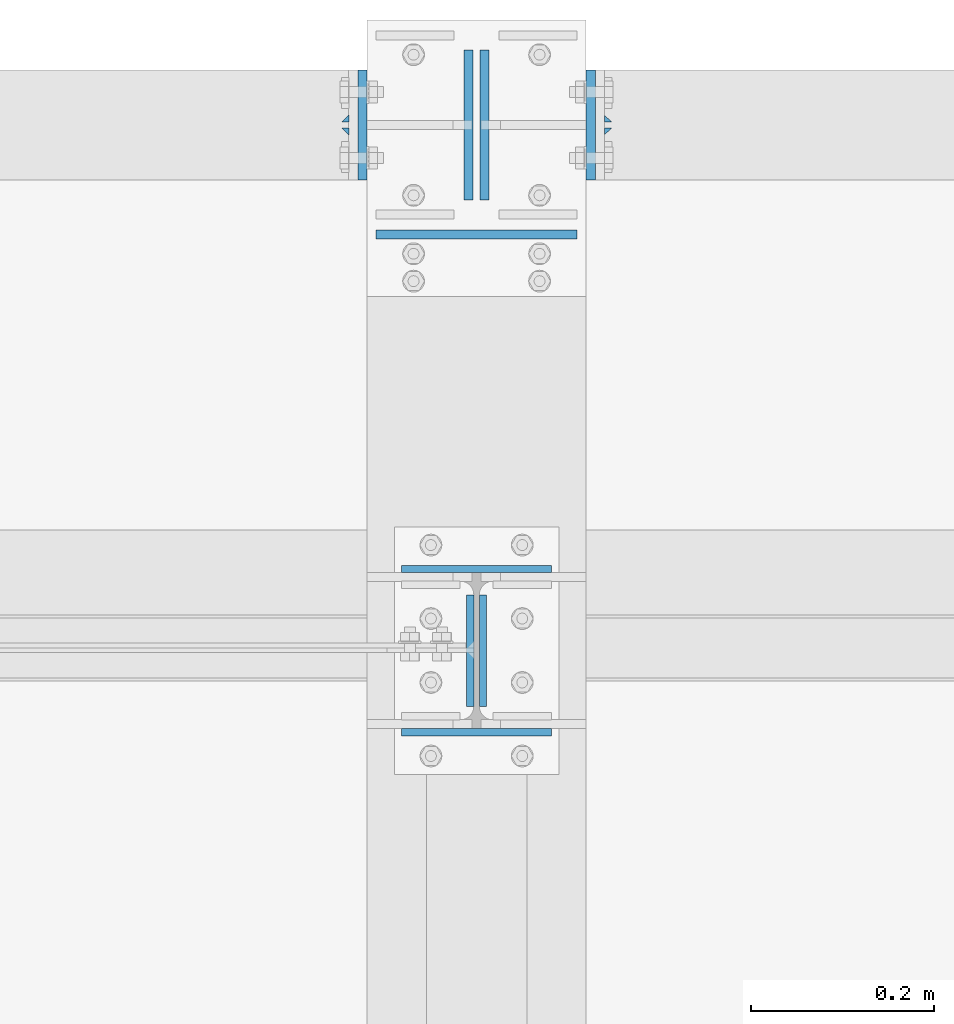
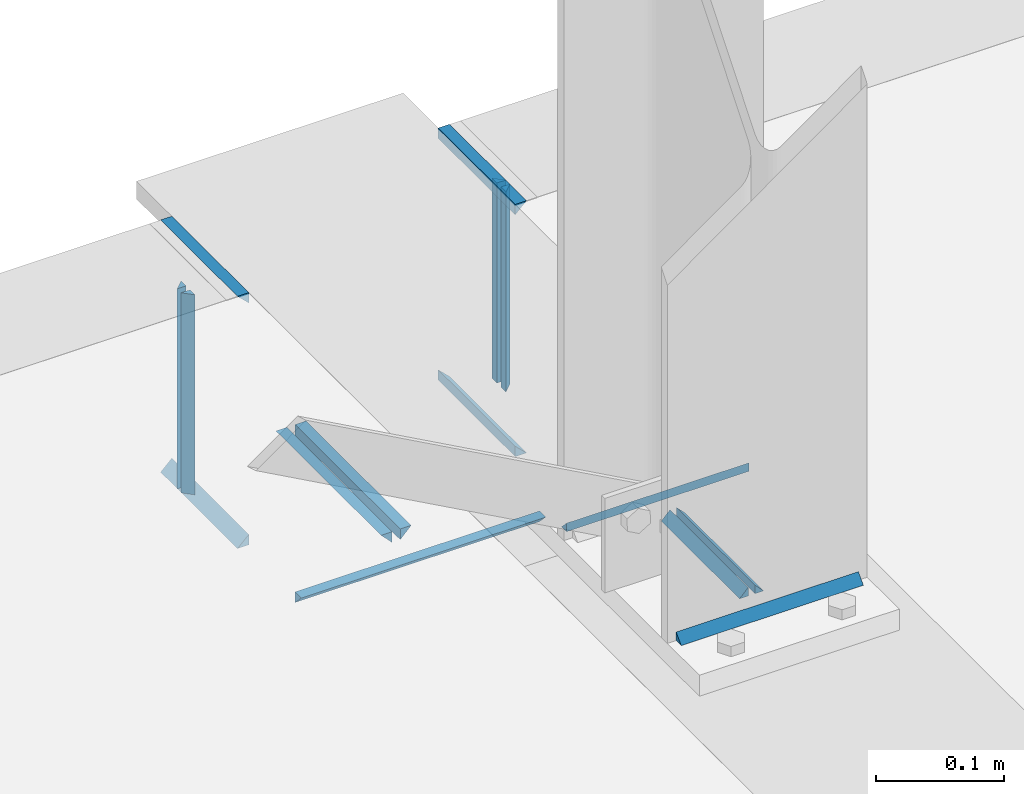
# One storey, part 17 of 66: 26 fasteners.
"""IFC4 building model written with IfcOpenShell, lengths in metres."""

import ifcopenshell
import ifcopenshell.guid

model = None  # the IFC model being written
_history = None  # IfcOwnerHistory: only IFC2X3 demands one
_inside = {}  # id of a spatial element -> (the spatial element, [elements in it])
_under = {}  # id of a project, library or spatial element -> (it, [spatial elements below it])
_declared = {}  # id of a project -> (the project, [libraries it declares])
_typed = {}  # id of a type object -> (the type object, [elements of that type])
_made_of = {}  # id of a material, layer set ... -> (it, [elements and type objects made of it])


def new_model(schema):
    """Start an empty IFC model of exactly this schema.

    Asked for "IFC4X3", IfcOpenShell would pick the latest addendum, in which some entities
    have other attributes; the version numbers below select the first issue.
    IFC2X3 requires an IfcOwnerHistory on every rooted entity: one is made here for all.
    """
    global model, _history
    if schema == "IFC4X3":
        model = ifcopenshell.file(schema_version=(4, 3, 0, 0))
    else:
        model = ifcopenshell.file(schema=schema)
    _inside.clear()
    _under.clear()
    _declared.clear()
    _typed.clear()
    _made_of.clear()
    _history = None
    if model.schema == "IFC2X3":
        org = make("IfcOrganization", Name="unknown")
        user = make(
            "IfcPersonAndOrganization",
            ThePerson=make("IfcPerson", FamilyName="unknown"),
            TheOrganization=org,
        )
        app = make(
            "IfcApplication",
            ApplicationDeveloper=org,
            Version="unknown",
            ApplicationFullName="unknown",
            ApplicationIdentifier="unknown",
        )
        _history = make(
            "IfcOwnerHistory",
            OwningUser=user,
            OwningApplication=app,
            ChangeAction="ADDED",
            CreationDate=0,
        )
    return model


def make(cls, **values):
    """One entity of the class cls with the attributes given. An attribute that is None is left unset."""
    return model.create_entity(
        cls, **{name: value for name, value in values.items() if value is not None}
    )


def rooted(cls, **values):
    """An entity with a GlobalId (a new one), such as an element, a storey or a relation."""
    return make(cls, GlobalId=ifcopenshell.guid.new(), OwnerHistory=_history, **values)


def si_unit(unit_type, name, prefix=None):
    """IfcSIUnit, for example si_unit("LENGTHUNIT", "METRE", prefix="MILLI")."""
    return make("IfcSIUnit", UnitType=unit_type, Prefix=prefix, Name=name)


def assignment(units):
    """IfcUnitAssignment: the units of a project."""
    return None if units is None else make("IfcUnitAssignment", Units=units)


def point(xyz):
    """IfcCartesianPoint."""
    return None if xyz is None else make("IfcCartesianPoint", Coordinates=xyz)


def direction(xyz):
    """IfcDirection."""
    return None if xyz is None else make("IfcDirection", DirectionRatios=xyz)


def frame(location, z_axis=None, x_axis=None):
    """IfcAxis2Placement3D, a coordinate frame: its origin and axes. An axis left out is left unset."""
    return make(
        "IfcAxis2Placement3D",
        Location=point(location),
        Axis=direction(z_axis),
        RefDirection=direction(x_axis),
    )


def origin_with_axes():
    """The frame at (0, 0, 0) with the z axis (0, 0, 1) and the x axis (1, 0, 0) written out."""
    return frame((0.0, 0.0, 0.0), z_axis=(0.0, 0.0, 1.0), x_axis=(1.0, 0.0, 0.0))


def place(relative_to, where):
    """IfcLocalPlacement: puts the frame where relative to a parent placement (None: the world)."""
    return make(
        "IfcLocalPlacement", PlacementRelTo=relative_to, RelativePlacement=where
    )


def context(
    kind, dimensions, precision=None, world=None, true_north=None, identifier=None
):
    """IfcGeometricRepresentationContext, for example the 3D "Model" context."""
    return make(
        "IfcGeometricRepresentationContext",
        ContextIdentifier=identifier,
        ContextType=kind,
        CoordinateSpaceDimension=dimensions,
        Precision=precision,
        WorldCoordinateSystem=world,
        TrueNorth=true_north,
    )


def project(units=None, contexts=None):
    """IfcProject with its units and contexts."""
    return rooted(
        "IfcProject",
        Name="project",
        RepresentationContexts=contexts,
        UnitsInContext=assignment(units),
    )


def spatial(cls, under=None, at=None, **own):
    """A site, building, storey or space (cls), placed at a placement, below another one or the project."""
    s = rooted(cls, ObjectPlacement=at, **own)
    if under is not None:
        _under.setdefault(under.id(), (under, []))[1].append(s)
    return s


def polyline(points):
    """IfcPolyline through the points."""
    return make("IfcPolyline", Points=[point(p) for p in points])


def outline(outer, holes=None, kind="AREA"):
    """IfcArbitraryClosedProfileDef: a profile drawn as a closed curve; with holes, ...WithVoids."""
    if holes is None:
        return make("IfcArbitraryClosedProfileDef", ProfileType=kind, OuterCurve=outer)
    return make(
        "IfcArbitraryProfileDefWithVoids",
        ProfileType=kind,
        OuterCurve=outer,
        InnerCurves=holes,
    )


def extrude(swept, where, along, depth):
    """IfcExtrudedAreaSolid: the profile swept, set in the frame where, extruded along a direction by depth."""
    return make(
        "IfcExtrudedAreaSolid",
        SweptArea=swept,
        Position=where,
        ExtrudedDirection=direction(along),
        Depth=depth,
    )


def shape(context_of_items, identifier, shape_type, items):
    """IfcShapeRepresentation: the items that make up one representation, for example the "Body"."""
    return make(
        "IfcShapeRepresentation",
        ContextOfItems=context_of_items,
        RepresentationIdentifier=identifier,
        RepresentationType=shape_type,
        Items=items,
    )


def made_of(thing, what):
    """Note that an element or type object is made of a material, layer set ...; save() writes the relation."""
    if what is not None:
        _made_of.setdefault(what.id(), (what, []))[1].append(thing)
    return thing


def type_object(cls, material=None, **own):
    """A type object (cls), such as IfcWallType, which elements share."""
    return made_of(rooted(cls, **own), material)


def element(
    cls,
    number,
    at=None,
    inside=None,
    cuts=None,
    type_object=None,
    material=None,
    context=None,
    identifier="Body",
    shape_type=None,
    held_by="IfcProductDefinitionShape",
    body=None,
    shapes=None,
    **own,
):
    """One element of the class cls, such as IfcWall. Its Tag is "e" and its number.

    at: its placement. inside: the storey or other place that contains it. cuts: it is an
    opening in that element (IfcRelVoidsElement). A single representation is given by context,
    identifier, shape_type and body (its items); several are given by shapes. held_by: the class
    of the entity that holds the representations. save() writes the other relations.
    """
    e = rooted(cls, Tag="e%d" % number, ObjectPlacement=at, **own)
    if body is not None:
        shapes = [shape(context, identifier, shape_type, body)]
    if shapes is not None:
        e.Representation = make(held_by, Representations=shapes)
    if inside is not None:
        _inside.setdefault(inside.id(), (inside, []))[1].append(e)
    if cuts is not None:
        rooted(
            "IfcRelVoidsElement", RelatingBuildingElement=cuts, RelatedOpeningElement=e
        )
    if type_object is not None:
        _typed.setdefault(type_object.id(), (type_object, []))[1].append(e)
    return made_of(e, material)


def aggregate(whole, parts):
    """IfcRelAggregates: a whole, such as a stair, and the parts it consists of."""
    return rooted("IfcRelAggregates", RelatingObject=whole, RelatedObjects=parts)


def save(model, path):
    """Write the relations noted so far, then the file.

    IfcRelAggregates (storeys below a building ...), IfcRelContainedInSpatialStructure (elements
    in a storey), IfcRelDefinesByType, IfcRelAssociatesMaterial and IfcRelDeclares: one each for
    every whole, place, type object, material and project.
    """
    for whole, parts in _under.values():
        aggregate(whole, parts)
    for where, things in _inside.values():
        rooted(
            "IfcRelContainedInSpatialStructure",
            RelatedElements=things,
            RelatingStructure=where,
        )
    for kind, things in _typed.values():
        rooted("IfcRelDefinesByType", RelatedObjects=things, RelatingType=kind)
    for what, things in _made_of.values():
        rooted("IfcRelAssociatesMaterial", RelatedObjects=things, RelatingMaterial=what)
    for by, libraries in _declared.values():
        rooted("IfcRelDeclares", RelatingContext=by, RelatedDefinitions=libraries)
    model.write(path)


model = new_model("IFC4")

# Units and contexts
model_context = context("Model", 3, precision=1e-05, world=origin_with_axes())
ifc_project = project(units=[si_unit("LENGTHUNIT", "METRE"), si_unit("AREAUNIT", "SQUARE_METRE"), si_unit("VOLUMEUNIT", "CUBIC_METRE"), si_unit("MASSUNIT", "GRAM", prefix="KILO"), si_unit("TIMEUNIT", "SECOND"), si_unit("PLANEANGLEUNIT", "RADIAN"), si_unit("SOLIDANGLEUNIT", "STERADIAN"), si_unit("THERMODYNAMICTEMPERATUREUNIT", "DEGREE_CELSIUS")], contexts=[model_context])

# Site, building, storey
placement_1 = place(None, origin_with_axes())
site = spatial("IfcSite", under=ifc_project, at=placement_1, Name="Italia", CompositionType="ELEMENT")
building = spatial("IfcBuilding", under=site, at=placement_1, Name="Uffici", CompositionType="ELEMENT")
storey_placement = place(None, frame((0.0, 0.0, 3.299999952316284), z_axis=(0.0, 0.0, 1.0), x_axis=(1.0, 0.0, 0.0)))
storey = spatial("IfcBuildingStorey", under=building, at=storey_placement, Name="Storey 1", CompositionType="ELEMENT", Elevation=3.299999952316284)

# Fasteners
fastener_type_1 = type_object("IfcFastenerType", Name="Collegamento 0107_0207", PredefinedType="WELD")
placement_2 = place(placement_1, origin_with_axes())
fastener_1_placement = place(placement_2, origin_with_axes())
element("IfcFastener", 1, at=fastener_1_placement, inside=storey, type_object=fastener_type_1, Name="Collegamento 0107_0207", context=model_context, shape_type="SweptSolid", body=[
    extrude(outline(polyline([(0.0, 0.0), (0.00792837, 0.00817347), (0.00792837, 0.0), (0.0, 0.0)])), frame((3.28705, 4.90788, 3.31995), z_axis=(-1.0, 0.0, 0.0), x_axis=(0.0, -1.0, 0.0)), (0.0, 0.0, 1.0), 0.1641),
])
fastener_type_2 = type_object("IfcFastenerType", Name="Collegamento 0107_0207", PredefinedType="WELD")
fastener_2_placement = place(placement_2, origin_with_axes())
element("IfcFastener", 2, at=fastener_2_placement, inside=storey, type_object=fastener_type_2, Name="Collegamento 0107_0207", context=model_context, shape_type="SweptSolid", body=[
    extrude(outline(polyline([(0.0, 0.0), (0.00792837, 0.00817347), (0.00792837, 0.0), (0.0, 0.0)])), frame((3.12295, 4.72112, 3.31995), z_axis=(1.0, 0.0, 0.0), x_axis=(0.0, 1.0, 0.0)), (0.0, 0.0, 1.0), 0.1641),
])
fastener_type_3 = type_object("IfcFastenerType", Name="Collegamento 0107_0207", PredefinedType="WELD")
fastener_3_placement = place(placement_2, origin_with_axes())
element("IfcFastener", 3, at=fastener_3_placement, inside=storey, type_object=fastener_type_3, Name="Collegamento 0107_0207", context=model_context, shape_type="SweptSolid", body=[
    extrude(outline(polyline([(0.0, 0.0), (0.00792813, 0.00817347), (0.00792813, 0.0), (0.0, 0.0)])), frame((3.21588, 4.75345, 3.31995), z_axis=(0.0, 1.0, 0.0), x_axis=(-1.0, 0.0, 0.0)), (0.0, 0.0, 1.0), 0.122101),
])
fastener_type_4 = type_object("IfcFastenerType", Name="Collegamento 0107_0207", PredefinedType="WELD")
fastener_4_placement = place(placement_2, origin_with_axes())
element("IfcFastener", 4, at=fastener_4_placement, inside=storey, type_object=fastener_type_4, Name="Collegamento 0107_0207", context=model_context, shape_type="SweptSolid", body=[
    extrude(outline(polyline([(0.0, 0.0), (0.00792813, 0.00817347), (0.00792813, 0.0), (0.0, 0.0)])), frame((3.19412, 4.87555, 3.31995), z_axis=(0.0, -1.0, 0.0), x_axis=(1.0, 0.0, 0.0)), (0.0, 0.0, 1.0), 0.122101),
])
fastener_type_5 = type_object("IfcFastenerType", Name="Collegamento 0107_0207", PredefinedType="WELD")
fastener_5_placement = place(placement_2, origin_with_axes())
element("IfcFastener", 5, at=fastener_5_placement, inside=storey, type_object=fastener_type_5, Name="Collegamento 0107_0207", context=model_context, shape_type="SweptSolid", body=[
    extrude(outline(polyline([(0.0, 0.0), (0.00792837, 0.00817347), (0.00792837, 0.0), (0.0, 0.0)])), frame((3.28705, 4.90788, 3.31995), z_axis=(-1.0, 0.0, 0.0), x_axis=(0.0, -1.0, 0.0)), (0.0, 0.0, 1.0), 0.1641),
])
fastener_type_6 = type_object("IfcFastenerType", Name="Collegamento 0107_0207", PredefinedType="WELD")
fastener_6_placement = place(placement_2, origin_with_axes())
element("IfcFastener", 6, at=fastener_6_placement, inside=storey, type_object=fastener_type_6, Name="Collegamento 0107_0207", context=model_context, shape_type="SweptSolid", body=[
    extrude(outline(polyline([(0.0, 0.0), (0.00792837, 0.00817347), (0.00792837, 0.0), (0.0, 0.0)])), frame((3.12295, 4.72112, 3.31995), z_axis=(1.0, 0.0, 0.0), x_axis=(0.0, 1.0, 0.0)), (0.0, 0.0, 1.0), 0.1641),
])
fastener_type_7 = type_object("IfcFastenerType", Name="Collegamento 0107_0207", PredefinedType="WELD")
fastener_7_placement = place(placement_2, origin_with_axes())
element("IfcFastener", 7, at=fastener_7_placement, inside=storey, type_object=fastener_type_7, Name="Collegamento 0107_0207", context=model_context, shape_type="SweptSolid", body=[
    extrude(outline(polyline([(0.0, 0.0), (0.00792813, 0.00817347), (0.00792813, 0.0), (0.0, 0.0)])), frame((3.21588, 4.75345, 3.31995), z_axis=(0.0, 1.0, 0.0), x_axis=(-1.0, 0.0, 0.0)), (0.0, 0.0, 1.0), 0.122101),
])
fastener_type_8 = type_object("IfcFastenerType", Name="Collegamento 0107_0207", PredefinedType="WELD")
fastener_8_placement = place(placement_2, origin_with_axes())
element("IfcFastener", 8, at=fastener_8_placement, inside=storey, type_object=fastener_type_8, Name="Collegamento 0107_0207", context=model_context, shape_type="SweptSolid", body=[
    extrude(outline(polyline([(0.0, 0.0), (0.00792813, 0.00817347), (0.00792813, 0.0), (0.0, 0.0)])), frame((3.19412, 4.87555, 3.31995), z_axis=(0.0, -1.0, 0.0), x_axis=(1.0, 0.0, 0.0)), (0.0, 0.0, 1.0), 0.122101),
])
fastener_type_9 = type_object("IfcFastenerType", Name="Collegamenti 0111_0011 0112_0012 0113_0013 0114_0014 0115_0015", PredefinedType="WELD")
fastener_9_placement = place(placement_2, origin_with_axes())
element("IfcFastener", 9, at=fastener_9_placement, inside=storey, type_object=fastener_type_9, Name="Collegamenti 0111_0011 0112_0012 0113_0013 0114_0014 0115_0015", context=model_context, shape_type="SweptSolid", body=[
    extrude(outline(polyline([(0.0, 0.0), (-0.00986814, -0.0101733), (-0.00986814, 0.0), (0.0, 0.0)])), frame((3.31505, 5.26518, 3.04505), z_axis=(-1.0, 0.0, 0.0), x_axis=(0.0, -1.0, 0.0)), (0.0, 0.0, 1.0), 0.2201),
])
fastener_type_10 = type_object("IfcFastenerType", Name="Collegamenti 0111_0011 0112_0012 0113_0013 0114_0014 0115_0015", PredefinedType="WELD")
fastener_10_placement = place(placement_2, origin_with_axes())
element("IfcFastener", 10, at=fastener_10_placement, inside=storey, type_object=fastener_type_10, Name="Collegamenti 0111_0011 0112_0012 0113_0013 0114_0014 0115_0015", context=model_context, shape_type="SweptSolid", body=[
    extrude(outline(polyline([(0.0, 0.0), (-0.00986814, -0.0101733), (-0.00986814, 0.0), (0.0, 0.0)])), frame((3.21857, 5.47205, 3.04505), z_axis=(0.0, -1.0, 0.0), x_axis=(1.0, 0.0, 0.0)), (0.0, 0.0, 1.0), 0.164101),
])
fastener_type_11 = type_object("IfcFastenerType", Name="Collegamenti 0111_0011 0112_0012 0113_0013 0114_0014 0115_0015", PredefinedType="WELD")
fastener_11_placement = place(placement_2, origin_with_axes())
element("IfcFastener", 11, at=fastener_11_placement, inside=storey, type_object=fastener_type_11, Name="Collegamenti 0111_0011 0112_0012 0113_0013 0114_0014 0115_0015", context=model_context, shape_type="SweptSolid", body=[
    extrude(outline(polyline([(0.0, 0.0), (-0.00986814, -0.0101733), (-0.00986814, 0.0), (0.0, 0.0)])), frame((3.19143, 5.30795, 3.04505), z_axis=(0.0, 1.0, 0.0), x_axis=(-1.0, 0.0, 0.0)), (0.0, 0.0, 1.0), 0.164101),
])
fastener_type_12 = type_object("IfcFastenerType", Name="Collegamenti 0111_0011 0112_0012 0113_0013 0114_0014 0115_0015", PredefinedType="WELD")
fastener_12_placement = place(placement_2, origin_with_axes())
element("IfcFastener", 12, at=fastener_12_placement, inside=storey, type_object=fastener_type_12, Name="Collegamenti 0111_0011 0112_0012 0113_0013 0114_0014 0115_0015", context=model_context, shape_type="SweptSolid", body=[
    extrude(outline(polyline([(0.0, 0.0), (-0.00986814, -0.0101733), (-0.00986814, 0.0), (0.0, 0.0)])), frame((3.31505, 5.26518, 3.04505), z_axis=(-1.0, 0.0, 0.0), x_axis=(0.0, -1.0, 0.0)), (0.0, 0.0, 1.0), 0.2201),
])
fastener_type_13 = type_object("IfcFastenerType", Name="Collegamenti 0111_0011 0112_0012 0113_0013 0114_0014 0115_0015", PredefinedType="WELD")
fastener_13_placement = place(placement_2, origin_with_axes())
element("IfcFastener", 13, at=fastener_13_placement, inside=storey, type_object=fastener_type_13, Name="Collegamenti 0111_0011 0112_0012 0113_0013 0114_0014 0115_0015", context=model_context, shape_type="SweptSolid", body=[
    extrude(outline(polyline([(0.0, 0.0), (-0.00986814, -0.0101733), (-0.00986814, 0.0), (0.0, 0.0)])), frame((3.21857, 5.47205, 3.04505), z_axis=(0.0, -1.0, 0.0), x_axis=(1.0, 0.0, 0.0)), (0.0, 0.0, 1.0), 0.164101),
])
fastener_type_14 = type_object("IfcFastenerType", Name="Collegamenti 0111_0011 0112_0012 0113_0013 0114_0014 0115_0015", PredefinedType="WELD")
fastener_14_placement = place(placement_2, origin_with_axes())
element("IfcFastener", 14, at=fastener_14_placement, inside=storey, type_object=fastener_type_14, Name="Collegamenti 0111_0011 0112_0012 0113_0013 0114_0014 0115_0015", context=model_context, shape_type="SweptSolid", body=[
    extrude(outline(polyline([(0.0, 0.0), (-0.00986814, -0.0101733), (-0.00986814, 0.0), (0.0, 0.0)])), frame((3.19143, 5.30795, 3.04505), z_axis=(0.0, 1.0, 0.0), x_axis=(-1.0, 0.0, 0.0)), (0.0, 0.0, 1.0), 0.164101),
])
fastener_type_15 = type_object("IfcFastenerType", Name="Collegamento 0112_0111", PredefinedType="WELD")
fastener_15_placement = place(placement_2, origin_with_axes())
element("IfcFastener", 15, at=fastener_15_placement, inside=storey, type_object=fastener_type_15, Name="Collegamento 0112_0111", context=model_context, shape_type="SweptSolid", body=[
    extrude(outline(polyline([(0.0, 0.0), (0.00792837, 0.00817347), (0.00792837, 0.0), (0.0, 0.0)])), frame((3.06505, 5.37902, 3.08475), z_axis=(0.0, 0.0, 1.0), x_axis=(0.0, 1.0, 0.0)), (0.0, 0.0, 1.0), 0.1905),
])
fastener_type_16 = type_object("IfcFastenerType", Name="Collegamento 0112_0111", PredefinedType="WELD")
fastener_16_placement = place(placement_2, origin_with_axes())
element("IfcFastener", 16, at=fastener_16_placement, inside=storey, type_object=fastener_type_16, Name="Collegamento 0112_0111", context=model_context, shape_type="SweptSolid", body=[
    extrude(outline(polyline([(0.0, 0.0), (-0.00792837, -0.00817347), (-0.00792837, 0.0), (0.0, 0.0)])), frame((3.06505, 5.40098, 3.27525), z_axis=(0.0, 0.0, -1.0), x_axis=(0.0, 1.0, 0.0)), (0.0, 0.0, 1.0), 0.1905),
])
fastener_type_17 = type_object("IfcFastenerType", Name="Collegamento 0112_0111", PredefinedType="WELD")
fastener_17_placement = place(placement_2, origin_with_axes())
element("IfcFastener", 17, at=fastener_17_placement, inside=storey, type_object=fastener_type_17, Name="Collegamento 0112_0111", context=model_context, shape_type="SweptSolid", body=[
    extrude(outline(polyline([(0.0, 0.0), (0.00792837, 0.00817347), (0.00792837, 0.0), (0.0, 0.0)])), frame((3.06505, 5.37902, 3.08475), z_axis=(0.0, 0.0, 1.0), x_axis=(0.0, 1.0, 0.0)), (0.0, 0.0, 1.0), 0.1905),
])
fastener_type_18 = type_object("IfcFastenerType", Name="Collegamento 0112_0111", PredefinedType="WELD")
fastener_18_placement = place(placement_2, origin_with_axes())
element("IfcFastener", 18, at=fastener_18_placement, inside=storey, type_object=fastener_type_18, Name="Collegamento 0112_0111", context=model_context, shape_type="SweptSolid", body=[
    extrude(outline(polyline([(0.0, 0.0), (-0.00792837, -0.00817347), (-0.00792837, 0.0), (0.0, 0.0)])), frame((3.06505, 5.40098, 3.27525), z_axis=(0.0, 0.0, -1.0), x_axis=(0.0, 1.0, 0.0)), (0.0, 0.0, 1.0), 0.1905),
])
fastener_type_19 = type_object("IfcFastenerType", Name="Collegamento 0112_0111", PredefinedType="WELD")
fastener_19_placement = place(placement_2, origin_with_axes())
element("IfcFastener", 19, at=fastener_19_placement, inside=storey, type_object=fastener_type_19, Name="Collegamento 0112_0111", context=model_context, shape_type="SweptSolid", body=[
    extrude(outline(polyline([(0.0, 0.0), (0.0101733, -0.00986814), (0.0, -0.00986814), (0.0, 0.0)])), frame((3.08505, 5.32995, 3.06982), z_axis=(0.0, 1.0, 0.0), x_axis=(-1.0, 0.0, 0.0)), (0.0, 0.0, 1.0), 0.1201),
])
fastener_type_20 = type_object("IfcFastenerType", Name="Collegamento 0112_0111", PredefinedType="WELD")
fastener_20_placement = place(placement_2, origin_with_axes())
element("IfcFastener", 20, at=fastener_20_placement, inside=storey, type_object=fastener_type_20, Name="Collegamento 0112_0111", context=model_context, shape_type="SweptSolid", body=[
    extrude(outline(polyline([(0.0, 0.0), (-0.0101733, 0.00986814), (0.0, 0.00986814), (0.0, 0.0)])), frame((3.08505, 5.45005, 3.29018), z_axis=(0.0, -1.0, 0.0), x_axis=(1.0, 0.0, 0.0)), (0.0, 0.0, 1.0), 0.1201),
])
fastener_type_21 = type_object("IfcFastenerType", Name="Collegamento 0112_0113", PredefinedType="WELD")
fastener_21_placement = place(placement_2, origin_with_axes())
element("IfcFastener", 21, at=fastener_21_placement, inside=storey, type_object=fastener_type_21, Name="Collegamento 0112_0113", context=model_context, shape_type="SweptSolid", body=[
    extrude(outline(polyline([(0.0, 0.0), (0.00792837, 0.00817347), (0.00792837, 0.0), (0.0, 0.0)])), frame((3.34495, 5.37902, 3.27525), z_axis=(0.0, 0.0, -1.0), x_axis=(0.0, 1.0, 0.0)), (0.0, 0.0, 1.0), 0.1905),
])
fastener_type_22 = type_object("IfcFastenerType", Name="Collegamento 0112_0113", PredefinedType="WELD")
fastener_22_placement = place(placement_2, origin_with_axes())
element("IfcFastener", 22, at=fastener_22_placement, inside=storey, type_object=fastener_type_22, Name="Collegamento 0112_0113", context=model_context, shape_type="SweptSolid", body=[
    extrude(outline(polyline([(0.0, 0.0), (-0.00792837, -0.00817347), (-0.00792837, 0.0), (0.0, 0.0)])), frame((3.34495, 5.40098, 3.08475), z_axis=(0.0, 0.0, 1.0), x_axis=(0.0, 1.0, 0.0)), (0.0, 0.0, 1.0), 0.1905),
])
fastener_type_23 = type_object("IfcFastenerType", Name="Collegamento 0112_0113", PredefinedType="WELD")
fastener_23_placement = place(placement_2, origin_with_axes())
element("IfcFastener", 23, at=fastener_23_placement, inside=storey, type_object=fastener_type_23, Name="Collegamento 0112_0113", context=model_context, shape_type="SweptSolid", body=[
    extrude(outline(polyline([(0.0, 0.0), (0.00792837, 0.00817347), (0.00792837, 0.0), (0.0, 0.0)])), frame((3.34495, 5.37902, 3.27525), z_axis=(0.0, 0.0, -1.0), x_axis=(0.0, 1.0, 0.0)), (0.0, 0.0, 1.0), 0.1905),
])
fastener_type_24 = type_object("IfcFastenerType", Name="Collegamento 0112_0113", PredefinedType="WELD")
fastener_24_placement = place(placement_2, origin_with_axes())
element("IfcFastener", 24, at=fastener_24_placement, inside=storey, type_object=fastener_type_24, Name="Collegamento 0112_0113", context=model_context, shape_type="SweptSolid", body=[
    extrude(outline(polyline([(0.0, 0.0), (-0.00792837, -0.00817347), (-0.00792837, 0.0), (0.0, 0.0)])), frame((3.34495, 5.40098, 3.08475), z_axis=(0.0, 0.0, 1.0), x_axis=(0.0, 1.0, 0.0)), (0.0, 0.0, 1.0), 0.1905),
])
fastener_type_25 = type_object("IfcFastenerType", Name="Collegamento 0112_0113", PredefinedType="WELD")
fastener_25_placement = place(placement_2, origin_with_axes())
element("IfcFastener", 25, at=fastener_25_placement, inside=storey, type_object=fastener_type_25, Name="Collegamento 0112_0113", context=model_context, shape_type="SweptSolid", body=[
    extrude(outline(polyline([(0.0, 0.0), (0.0101733, -0.00986814), (0.0, -0.00986814), (0.0, 0.0)])), frame((3.32495, 5.45005, 3.06982), z_axis=(0.0, -1.0, 0.0), x_axis=(1.0, 0.0, 0.0)), (0.0, 0.0, 1.0), 0.1201),
])
fastener_type_26 = type_object("IfcFastenerType", Name="Collegamento 0112_0113", PredefinedType="WELD")
fastener_26_placement = place(placement_2, origin_with_axes())
element("IfcFastener", 26, at=fastener_26_placement, inside=storey, type_object=fastener_type_26, Name="Collegamento 0112_0113", context=model_context, shape_type="SweptSolid", body=[
    extrude(outline(polyline([(0.0, 0.0), (-0.0101733, 0.00986814), (0.0, 0.00986814), (0.0, 0.0)])), frame((3.32495, 5.32995, 3.29018), z_axis=(0.0, 1.0, 0.0), x_axis=(-1.0, 0.0, 0.0)), (0.0, 0.0, 1.0), 0.1201),
])

save(model, "model.ifc")
